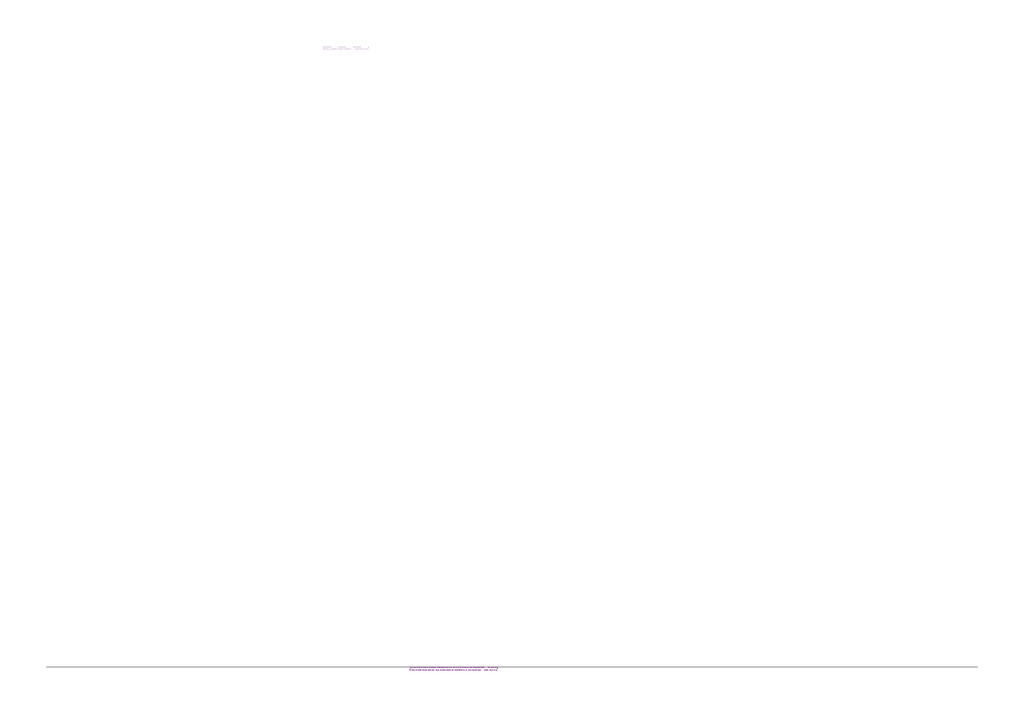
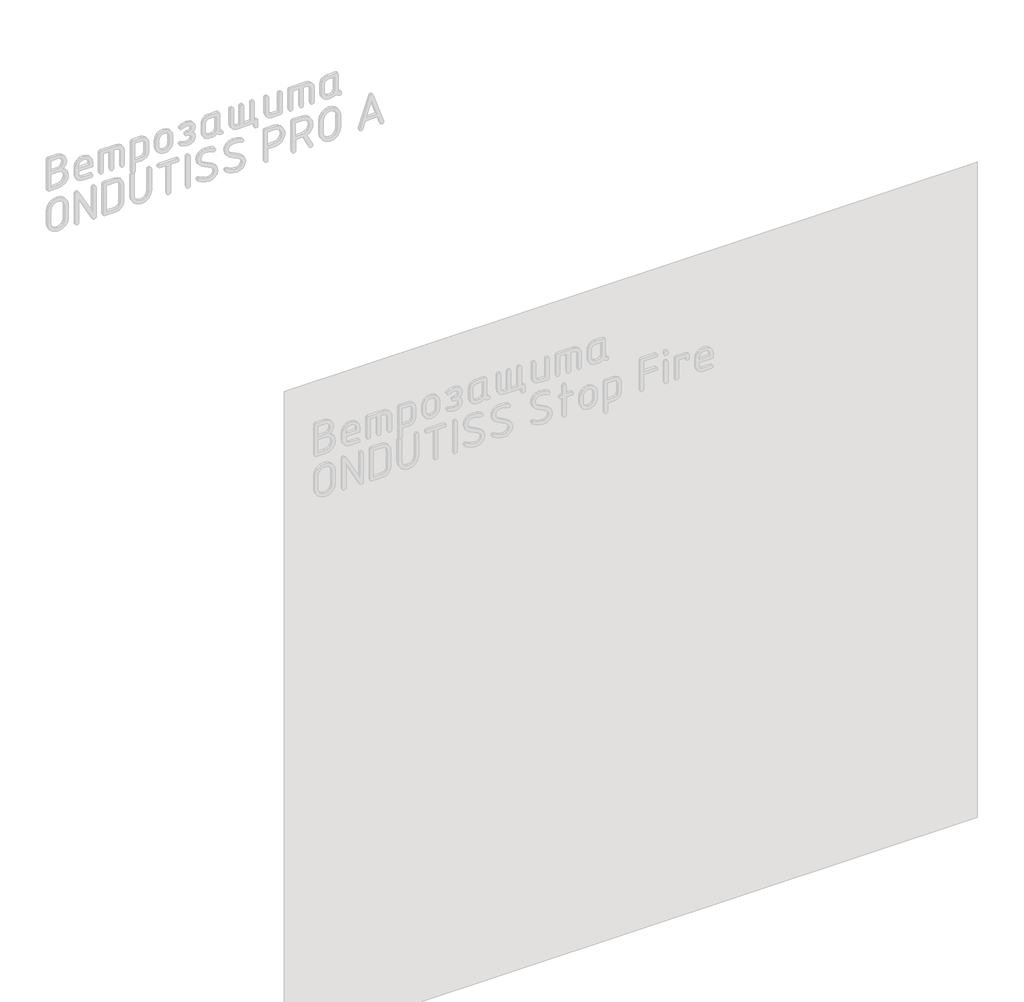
# One storey, part 21 of 42: 1 proxy.
"""IFC4 building model written with IfcOpenShell, lengths in millimetres."""

from ifc_helpers import new_model, si_unit, frame, origin, place, context, project, spatial, polyline, outline, extrude, element, save

model = new_model("IFC4")

# Units and contexts
model_context = context("Model", 3, world=origin())
ifc_project = project(units=[si_unit("LENGTHUNIT", "METRE", prefix="MILLI")], contexts=[model_context])

# Site, building, storey
site = spatial("IfcSite", under=ifc_project)
building = spatial("IfcBuilding", under=site)
storey = spatial("IfcBuildingStorey", under=building, Name="Этаж 01", Elevation=0.0)

# Proxy
placement = place(None, origin())
element("IfcBuildingElementProxy", 1, Name="150 мм GOST Common", ObjectType="150 мм GOST Common", at=placement, inside=storey, context=model_context, shape_type="SweptSolid", body=[
    extrude(outline(polyline([(2745.2967896, -23242.9801231), (2758.5207699, -23232.3430091), (2775.180588, -23228.7973044), (2790.0625597, -23231.4890436), (2802.4275806, -23239.5642611), (2810.7574896, -23251.5547357), (2813.534126, -23265.9922459), (2813.534126, -23303.1871874), (2811.6464128, -23308.7604359), (2805.9832732, -23310.6181854), (2670.2277293, -23310.6181854), (2664.5645897, -23308.750448), (2662.6768765, -23303.1472358), (2662.6768765, -23265.8723911), (2665.9479139, -23248.6932022), (2675.7610262, -23234.2307223), (2690.1885485, -23224.4026281), (2707.302816, -23221.1265968), (2729.4859431, -23226.5899784), (2745.2967896, -23242.9801231)]), holes=[polyline([(2798.1927108, -23295.2767702), (2798.1927108, -23266.0721491), (2796.5097495, -23257.6373671), (2791.4608658, -23250.5509517), (2784.0248739, -23245.7417776), (2775.180588, -23244.1387196), (2766.3363021, -23245.7417776), (2758.9003101, -23250.5509517), (2753.8514264, -23257.6373671), (2752.1684652, -23266.0721491), (2752.1684652, -23295.2767702), (2798.1927108, -23295.2767702)]), polyline([(2736.82705, -23295.2767702), (2736.82705, -23265.8723911), (2734.6946332, -23254.4811906), (2728.2973829, -23244.997679), (2718.8138714, -23238.6004287), (2707.4226708, -23236.468012), (2696.0314703, -23238.6004287), (2686.5479588, -23244.997679), (2680.1507085, -23254.4811906), (2678.0182917, -23265.8723911), (2678.0182917, -23295.2767702), (2736.82705, -23295.2767702)])]), frame((0.0, -27839.3929597, 0.0), z_axis=(0.0, 1.0, 0.0), x_axis=(0.0, 0.0, 1.0)), (0.0, 0.0, 1.0), 10.0),
    extrude(outline(polyline([(2708.7011221, -23175.1023512), (2708.7011221, -23115.0950449), (2730.7544065, -23115.0950449), (2745.0371042, -23117.8067599), (2756.8827542, -23125.9419048), (2764.8530988, -23138.0322584), (2767.5098804, -23152.6095992), (2764.7731956, -23167.0770731), (2756.5631414, -23179.3172452), (2744.4677939, -23187.6621361), (2730.0752292, -23190.4437664), (2692.6405781, -23190.4437664), (2681.004674, -23188.2264525), (2671.3463742, -23181.5745107), (2664.8442509, -23171.7763803), (2662.6768765, -23160.1205004), (2662.6768765, -23122.6059461), (2664.5945534, -23116.9727702), (2670.3475841, -23115.0950449), (2676.1006148, -23116.9727702), (2678.0182917, -23122.6059461), (2678.0182917, -23160.1205004), (2682.5527986, -23170.6677234), (2693.3597069, -23175.1023512), (2708.7011221, -23175.1023512)]), holes=[polyline([(2754.0461905, -23152.6095992), (2752.3981869, -23143.9800532), (2747.4541761, -23136.7088616), (2740.1829845, -23131.7648508), (2731.5534385, -23130.1168472), (2724.0425373, -23130.1168472), (2724.0425373, -23175.1023512), (2731.5534385, -23175.1023512), (2740.1829845, -23173.4543476), (2747.4541761, -23168.5103368), (2752.3981869, -23161.2391453), (2754.0461905, -23152.6095992)])]), frame((0.0, -27839.3929597, 0.0), z_axis=(0.0, 1.0, 0.0), x_axis=(0.0, 0.0, 1.0)), (0.0, 0.0, 1.0), 10.0),
    extrude(outline(polyline([(2767.5098804, -23077.9400549), (2765.642143, -23083.6930856), (2760.0389308, -23085.6107625), (2670.1478261, -23085.6107625), (2664.5446139, -23083.6930856), (2662.6768765, -23077.9400549), (2664.5446139, -23072.1870242), (2670.1478261, -23070.2693473), (2752.1684652, -23070.2693473), (2752.1684652, -23039.5865169), (2670.1478261, -23039.5865169), (2664.5446139, -23037.66884), (2662.6768765, -23031.9158093), (2664.5446139, -23026.1627786), (2670.1478261, -23024.2451017), (2752.1684652, -23024.2451017), (2752.1684652, -23008.9036865), (2747.8736679, -22997.9769234), (2737.2665176, -22993.5622713), (2670.1478261, -22993.5622713), (2664.5446139, -22991.6445944), (2662.6768765, -22985.8915637), (2664.5446139, -22980.138533), (2670.1478261, -22978.2208561), (2737.5461788, -22978.2208561), (2749.1071737, -22980.4581459), (2758.7804553, -22987.170015), (2765.3275241, -22997.0780123), (2767.5098804, -23008.9036865), (2767.5098804, -23077.9400549)])), frame((0.0, -27839.3929597, 0.0), z_axis=(0.0, 1.0, 0.0), x_axis=(0.0, 0.0, 1.0)), (0.0, 0.0, 1.0), 10.0),
    extrude(outline(polyline([(2759.9590276, -22947.5380258), (2624.2034837, -22947.5380258), (2618.5403441, -22945.6203489), (2616.6526309, -22939.8673182), (2618.5703078, -22934.1142875), (2624.3233385, -22932.1966106), (2662.6768765, -22932.1966106), (2662.6768765, -22902.7922314), (2664.8592328, -22891.4010309), (2671.4063016, -22881.9175193), (2681.0795832, -22875.5202691), (2692.6405781, -22873.3878523), (2737.5461788, -22873.3878523), (2749.1820829, -22875.5352509), (2758.8403827, -22881.9774467), (2765.342506, -22891.5358675), (2767.5098804, -22903.031941), (2767.5098804, -22940.1070278), (2765.6221672, -22945.6802763), (2759.9590276, -22947.5380258)]), holes=[polyline([(2752.1684652, -22932.1966106), (2752.1684652, -22903.2316991), (2747.8936437, -22892.9042099), (2737.3464208, -22888.7292675), (2692.8403361, -22888.7292675), (2682.3530405, -22892.9641373), (2678.0182917, -22903.2316991), (2678.0182917, -22932.1966106), (2752.1684652, -22932.1966106)])]), frame((0.0, -27839.3929597, 0.0), z_axis=(0.0, 1.0, 0.0), x_axis=(0.0, 0.0, 1.0)), (0.0, 0.0, 1.0), 10.0),
    extrude(outline(polyline([(2700.1115277, -22842.7050219), (2685.718963, -22839.9933069), (2673.6236155, -22831.8581619), (2665.4135613, -22819.8776753), (2662.6768765, -22805.6299352), (2665.4135613, -22791.3821951), (2673.6236155, -22779.4017084), (2685.718963, -22771.2665634), (2700.1115277, -22768.5548485), (2730.0752292, -22768.5548485), (2744.6176124, -22771.2365997), (2756.6829962, -22779.2818536), (2764.8031593, -22791.2323766), (2767.5098804, -22805.6299352), (2764.7731956, -22819.8776753), (2756.5631414, -22831.8581619), (2744.4677939, -22839.9933069), (2730.0752292, -22842.7050219), (2700.1115277, -22842.7050219)]), holes=[polyline([(2700.5509953, -22783.8962636), (2691.8914855, -22785.4893338), (2684.6103061, -22790.2685442), (2679.6662953, -22797.2950322), (2678.0182917, -22805.6299352), (2679.6563074, -22814.0397474), (2684.5703545, -22821.0512536), (2691.841546, -22825.7855184), (2700.5509953, -22827.3636067), (2730.5546484, -22827.3636067), (2739.1841945, -22825.7705366), (2746.4553861, -22820.9913262), (2751.3993968, -22813.9648382), (2753.0474004, -22805.6299352), (2751.3993968, -22797.2950322), (2746.4553861, -22790.2685442), (2739.1841945, -22785.4893338), (2730.5546484, -22783.8962636), (2700.5509953, -22783.8962636)])]), frame((0.0, -27839.3929597, 0.0), z_axis=(0.0, 1.0, 0.0), x_axis=(0.0, 0.0, 1.0)), (0.0, 0.0, 1.0), 10.0),
    extrude(outline(polyline([(2693.3996585, -22686.7339674), (2682.5128469, -22691.1086678), (2678.0182917, -22701.7557698), (2678.0182917, -22709.266671), (2681.8336697, -22724.3084492), (2685.6490477, -22733.4373902), (2682.9323388, -22737.5524052), (2677.6587273, -22739.2703241), (2671.7059386, -22736.2240145), (2666.6320851, -22727.0850855), (2662.6768765, -22709.266671), (2662.6768765, -22701.7557698), (2664.8991844, -22690.0699262), (2671.566108, -22680.2618079), (2681.4591234, -22673.6098661), (2693.3597069, -22671.3925522), (2707.1829612, -22674.0393458), (2716.3718297, -22681.9797267), (2725.0113637, -22674.0393458), (2738.3052592, -22671.3925522), (2749.6215505, -22673.6098661), (2759.0401407, -22680.2618079), (2765.3924455, -22690.0699262), (2767.5098804, -22701.7557698), (2767.5098804, -22709.266671), (2763.434817, -22726.9652307), (2758.2710724, -22736.1940508), (2752.5280296, -22739.2703241), (2747.2743939, -22737.5524052), (2744.5377092, -22733.557245), (2748.3530872, -22724.6480378), (2752.1684652, -22709.266671), (2752.1684652, -22701.7557698), (2748.1133776, -22691.0687162), (2738.1055012, -22686.7339674), (2728.0976249, -22690.7690792), (2724.0425373, -22702.434947), (2724.0425373, -22704.8320431), (2724.0425373, -22707.1092845), (2721.7852718, -22714.5203066), (2716.3318781, -22716.7376206), (2710.8984602, -22714.580234), (2708.7011221, -22709.266671), (2708.7011221, -22699.5983833), (2704.7459135, -22690.7291276), (2693.3996585, -22686.7339674)])), frame((0.0, -27839.3929597, 0.0), z_axis=(0.0, 1.0, 0.0), x_axis=(0.0, 0.0, 1.0)), (0.0, 0.0, 1.0), 10.0),
    extrude(outline(polyline([(2670.1478261, -22551.5776976), (2675.781002, -22553.4504289), (2677.6587273, -22559.068623), (2679.5264647, -22564.686817), (2685.1296769, -22566.5595483), (2760.0389308, -22566.5595483), (2765.642143, -22568.4172978), (2767.5098804, -22573.9905463), (2767.5098804, -22611.0656331), (2765.342506, -22622.5617066), (2758.8403827, -22632.1201274), (2749.1820829, -22638.5623232), (2737.5461788, -22640.7097218), (2692.6405781, -22640.7097218), (2681.004674, -22638.5623232), (2671.3463742, -22632.1201274), (2664.8442509, -22622.5617066), (2662.6768765, -22611.0656331), (2662.6768765, -22596.2036371), (2664.6644687, -22585.2269344), (2670.6272453, -22576.1079812), (2664.6644687, -22568.5271648), (2662.6768765, -22559.0486472), (2664.5446139, -22553.445435), (2670.1478261, -22551.5776976)]), holes=[polyline([(2752.1684652, -22581.9009635), (2692.8403361, -22581.9009635), (2682.3530405, -22586.1358334), (2678.0182917, -22596.4033951), (2678.0182917, -22610.8658751), (2682.3929921, -22621.0934852), (2692.8403361, -22625.3683066), (2737.3464208, -22625.3683066), (2747.8337163, -22621.1334368), (2752.1684652, -22610.8658751), (2752.1684652, -22581.9009635)])]), frame((0.0, -27839.3929597, 0.0), z_axis=(0.0, 1.0, 0.0), x_axis=(0.0, 0.0, 1.0)), (0.0, 0.0, 1.0), 10.0),
    extrude(outline(polyline([(2662.6768765, -22415.7022989), (2647.3354613, -22415.7022989), (2641.5824306, -22413.784622), (2639.6647537, -22408.0315913), (2641.5824306, -22402.2785606), (2647.3354613, -22400.3608837), (2670.3475841, -22400.3608837), (2676.1006148, -22402.2785606), (2678.0182917, -22408.0315913), (2678.0182917, -22415.7022989), (2760.0389308, -22415.7022989), (2765.642143, -22417.6199758), (2767.5098804, -22423.3730065), (2765.642143, -22429.1260372), (2760.0389308, -22431.0437141), (2678.0182917, -22431.0437141), (2678.0182917, -22461.7265445), (2760.0389308, -22461.7265445), (2765.642143, -22463.6442214), (2767.5098804, -22469.3972521), (2765.642143, -22475.1502828), (2760.0389308, -22477.0679597), (2678.0182917, -22477.0679597), (2678.0182917, -22491.1309236), (2682.4329437, -22501.0389209), (2692.9202393, -22505.1938876), (2760.0389308, -22505.1938876), (2765.642143, -22507.1115645), (2767.5098804, -22512.8645952), (2765.642143, -22518.6176259), (2760.0389308, -22520.5353028), (2692.6405781, -22520.5353028), (2681.0795832, -22518.3679283), (2671.4063016, -22511.8658051), (2664.8592328, -22502.2075053), (2662.6768765, -22490.5716012), (2662.6768765, -22415.7022989)])), frame((0.0, -27839.3929597, 0.0), z_axis=(0.0, 1.0, 0.0), x_axis=(0.0, 0.0, 1.0)), (0.0, 0.0, 1.0), 10.0),
    extrude(outline(polyline([(2760.0389308, -22295.5278799), (2765.642143, -22297.4455568), (2767.5098804, -22303.1985875), (2765.642143, -22308.9516182), (2760.0389308, -22310.8692951), (2678.0182917, -22310.8692951), (2678.0182917, -22339.8342066), (2682.4329437, -22350.0618167), (2692.9202393, -22354.3366381), (2760.0389308, -22354.3366381), (2765.642143, -22356.254315), (2767.5098804, -22362.0073457), (2765.642143, -22367.7603764), (2760.0389308, -22369.6780533), (2692.6405781, -22369.6780533), (2681.004674, -22367.5306547), (2671.3463742, -22361.0884589), (2664.8442509, -22351.5300381), (2662.6768765, -22340.0339646), (2662.6768765, -22302.9588778), (2664.5446139, -22297.3856294), (2670.1478261, -22295.5278799), (2760.0389308, -22295.5278799)])), frame((0.0, -27839.3929597, 0.0), z_axis=(0.0, 1.0, 0.0), x_axis=(0.0, 0.0, 1.0)), (0.0, 0.0, 1.0), 10.0),
    extrude(outline(polyline([(2767.5098804, -22257.1743419), (2765.642143, -22262.9273726), (2760.0389308, -22264.8450495), (2670.1478261, -22264.8450495), (2664.5446139, -22262.9273726), (2662.6768765, -22257.1743419), (2664.5446139, -22251.4213112), (2670.1478261, -22249.5036343), (2752.1684652, -22249.5036343), (2752.1684652, -22218.8208039), (2670.1478261, -22218.8208039), (2664.5446139, -22216.903127), (2662.6768765, -22211.1500963), (2664.5446139, -22205.3970656), (2670.1478261, -22203.4793887), (2752.1684652, -22203.4793887), (2752.1684652, -22188.1379735), (2747.8736679, -22177.2112103), (2737.2665176, -22172.7965583), (2670.1478261, -22172.7965583), (2664.5446139, -22170.8788814), (2662.6768765, -22165.1258507), (2664.5446139, -22159.37282), (2670.1478261, -22157.4551431), (2737.5461788, -22157.4551431), (2749.1071737, -22159.6924328), (2758.7804553, -22166.4043019), (2765.3275241, -22176.3122993), (2767.5098804, -22188.1379735), (2767.5098804, -22257.1743419)])), frame((0.0, -27839.3929597, 0.0), z_axis=(0.0, 1.0, 0.0), x_axis=(0.0, 0.0, 1.0)), (0.0, 0.0, 1.0), 10.0),
    extrude(outline(polyline([(2670.1478261, -22037.6402885), (2675.781002, -22039.5130198), (2677.6587273, -22045.1312138), (2679.5264647, -22050.7494079), (2685.1296769, -22052.6221392), (2760.0389308, -22052.6221392), (2765.642143, -22054.4798887), (2767.5098804, -22060.0531372), (2767.5098804, -22097.1282239), (2765.342506, -22108.6242974), (2758.8403827, -22118.1827182), (2749.1820829, -22124.6249141), (2737.5461788, -22126.7723127), (2692.6405781, -22126.7723127), (2681.004674, -22124.6249141), (2671.3463742, -22118.1827182), (2664.8442509, -22108.6242974), (2662.6768765, -22097.1282239), (2662.6768765, -22082.266228), (2664.6644687, -22071.2895253), (2670.6272453, -22062.1705721), (2664.6644687, -22054.5897556), (2662.6768765, -22045.111238), (2664.5446139, -22039.5080259), (2670.1478261, -22037.6402885)]), holes=[polyline([(2752.1684652, -22067.9635544), (2692.8403361, -22067.9635544), (2682.3530405, -22072.1984243), (2678.0182917, -22082.465986), (2678.0182917, -22096.9284659), (2682.3929921, -22107.1560761), (2692.8403361, -22111.4308975), (2737.3464208, -22111.4308975), (2747.8337163, -22107.1960277), (2752.1684652, -22096.9284659), (2752.1684652, -22067.9635544)])]), frame((0.0, -27839.3929597, 0.0), z_axis=(0.0, 1.0, 0.0), x_axis=(0.0, 0.0, 1.0)), (0.0, 0.0, 1.0), 10.0),
    extrude(outline(polyline([(2511.9177961, -23221.1265968), (2572.2447152, -23221.1265968), (2589.6885835, -23224.3876463), (2604.3058759, -23234.1707949), (2614.2088792, -23248.618293), (2617.5098804, -23265.8723911), (2614.1938974, -23283.05158), (2604.2459485, -23297.5140599), (2589.6136742, -23307.3421541), (2572.2447152, -23310.6181854), (2511.9177961, -23310.6181854), (2494.5488371, -23307.3421541), (2479.9165628, -23297.5140599), (2469.9686139, -23283.05158), (2466.6526309, -23265.8723911), (2469.9686139, -23248.6932022), (2479.9165628, -23234.2307223), (2494.5488371, -23224.4026281), (2511.9177961, -23221.1265968)]), holes=[polyline([(2512.0376509, -23236.468012), (2500.3917589, -23238.6004287), (2490.7034954, -23244.997679), (2484.1714084, -23254.4811906), (2481.9940461, -23265.8723911), (2484.1714084, -23277.2635916), (2490.7034954, -23286.7471032), (2500.3917589, -23293.1443535), (2512.0376509, -23295.2767702), (2572.1248604, -23295.2767702), (2583.7707524, -23293.1443535), (2593.4590159, -23286.7471032), (2599.9911029, -23277.2635916), (2602.1684652, -23265.8723911), (2599.9911029, -23254.4811906), (2593.4590159, -23244.997679), (2583.7707524, -23238.6004287), (2572.1248604, -23236.468012), (2512.0376509, -23236.468012)])]), frame((0.0, -27839.3929597, 0.0), z_axis=(0.0, 1.0, 0.0), x_axis=(0.0, 0.0, 1.0)), (0.0, 0.0, 1.0), 10.0),
    extrude(outline(polyline([(2503.3282016, -23116.2935929), (2613.0353009, -23175.1023512), (2617.5098804, -23182.453446), (2615.6221672, -23188.4461863), (2609.9590276, -23190.4437664), (2474.2034837, -23190.4437664), (2468.5403441, -23188.5260895), (2466.6526309, -23182.7730588), (2468.5403441, -23177.0200281), (2474.2034837, -23175.1023512), (2580.9541645, -23175.1023512), (2470.4080815, -23116.2935929), (2466.6526309, -23109.1023046), (2468.5403441, -23102.9897094), (2474.2034837, -23100.9521777), (2609.9590276, -23100.9521777), (2615.6221672, -23102.8698546), (2617.5098804, -23108.6228853), (2615.6221672, -23114.375916), (2609.9590276, -23116.2935929), (2503.3282016, -23116.2935929)])), frame((0.0, -27839.3929597, 0.0), z_axis=(0.0, 1.0, 0.0), x_axis=(0.0, 0.0, 1.0)), (0.0, 0.0, 1.0), 10.0),
    extrude(outline(polyline([(2609.9590276, -23070.2693473), (2474.2034837, -23070.2693473), (2468.5403441, -23068.4016099), (2466.6526309, -23062.7983977), (2466.6526309, -23018.0526034), (2469.4092915, -23003.7299541), (2477.6792731, -22991.684546), (2489.8645117, -22983.5044555), (2504.3669433, -22980.7777587), (2579.795568, -22980.7777587), (2594.4478181, -22983.4744918), (2606.603093, -22991.5646912), (2614.7831835, -23003.5801356), (2617.5098804, -23018.0526034), (2617.5098804, -23062.7983977), (2615.6221672, -23068.4016099), (2609.9590276, -23070.2693473)]), holes=[polyline([(2602.1684652, -23054.9279321), (2602.1684652, -23018.1724582), (2600.5204616, -23009.6977246), (2595.5764508, -23002.5713576), (2588.2952713, -22997.7322198), (2579.6357616, -22996.1191739), (2504.5267497, -22996.1191739), (2495.8672399, -22997.7322198), (2488.5860605, -23002.5713576), (2483.6420497, -23009.6977246), (2481.9940461, -23018.1724582), (2481.9940461, -23054.9279321), (2602.1684652, -23054.9279321)])]), frame((0.0, -27839.3929597, 0.0), z_axis=(0.0, 1.0, 0.0), x_axis=(0.0, 0.0, 1.0)), (0.0, 0.0, 1.0), 10.0),
    extrude(outline(polyline([(2609.9590276, -22860.6033396), (2615.6221672, -22862.5210165), (2617.5098804, -22868.2740472), (2615.6321551, -22874.0270779), (2609.9989792, -22875.9447548), (2512.1175541, -22875.9447548), (2500.4367044, -22878.0771716), (2490.7234712, -22884.4744219), (2484.1764024, -22893.9579334), (2481.9940461, -22905.349134), (2484.1764024, -22916.7403345), (2490.7234712, -22926.223846), (2500.4367044, -22932.6210963), (2512.1175541, -22934.7535131), (2609.9989792, -22934.7535131), (2615.6321551, -22936.67119), (2617.5098804, -22942.4242207), (2615.6221672, -22948.1772514), (2609.9590276, -22950.0949283), (2511.9177961, -22950.0949283), (2494.5488371, -22946.8188969), (2479.9165628, -22936.9908028), (2469.9686139, -22922.5283229), (2466.6526309, -22905.349134), (2469.9686139, -22888.1699451), (2479.9165628, -22873.7074651), (2494.5488371, -22863.879371), (2511.9177961, -22860.6033396), (2609.9590276, -22860.6033396)])), frame((0.0, -27839.3929597, 0.0), z_axis=(0.0, 1.0, 0.0), x_axis=(0.0, 0.0, 1.0)), (0.0, 0.0, 1.0), 10.0),
    extrude(outline(polyline([(2609.8391728, -22831.6384281), (2604.0861421, -22829.7607028), (2602.1684652, -22824.1275269), (2602.1684652, -22794.1238738), (2474.1635321, -22794.1238738), (2468.5303562, -22792.2061969), (2466.6526309, -22786.4531662), (2468.5303562, -22780.7001355), (2474.1635321, -22778.7824586), (2602.1684652, -22778.7824586), (2602.1684652, -22748.7788054), (2604.0861421, -22743.1755932), (2609.8391728, -22741.3078558), (2615.5922035, -22743.1755932), (2617.5098804, -22748.7788054), (2617.5098804, -22824.1275269), (2615.5922035, -22829.7607028), (2609.8391728, -22831.6384281)])), frame((0.0, -27839.3929597, 0.0), z_axis=(0.0, 1.0, 0.0), x_axis=(0.0, 0.0, 1.0)), (0.0, 0.0, 1.0), 10.0),
    extrude(outline(polyline([(2466.6526309, -22702.0753826), (2468.5403441, -22696.3223519), (2474.2034837, -22694.404675), (2609.9590276, -22694.404675), (2615.6221672, -22696.3223519), (2617.5098804, -22702.0753826), (2615.6221672, -22707.8284133), (2609.9590276, -22709.7460902), (2474.2034837, -22709.7460902), (2468.5403441, -22707.8284133), (2466.6526309, -22702.0753826)])), frame((0.0, -27839.3929597, 0.0), z_axis=(0.0, 1.0, 0.0), x_axis=(0.0, 0.0, 1.0)), (0.0, 0.0, 1.0), 10.0),
    extrude(outline(polyline([(2504.2870401, -22574.2302559), (2524.1429863, -22579.3140973), (2537.8463858, -22594.5656214), (2559.5001542, -22636.2351424), (2567.6602689, -22645.3441076), (2579.59581, -22648.3804294), (2588.2603137, -22646.7673835), (2595.556475, -22641.9282457), (2600.5154676, -22634.8018786), (2602.1684652, -22626.3271451), (2600.4904979, -22609.567448), (2595.456596, -22592.6878961), (2594.657564, -22589.5716711), (2596.8748779, -22584.2780839), (2602.1684652, -22582.06077), (2609.1599955, -22586.4953978), (2615.4224092, -22603.4648408), (2617.5098804, -22626.6467579), (2614.7432319, -22640.8195887), (2606.4432866, -22652.8150572), (2594.2680359, -22660.9951478), (2579.8754712, -22663.7218446), (2560.0494887, -22658.6979306), (2546.4359803, -22643.6261888), (2524.7822119, -22601.9167162), (2516.5322061, -22592.6579324), (2504.5667013, -22589.5716711), (2495.9021976, -22591.1996989), (2488.6060363, -22596.0837823), (2483.6470437, -22603.2750707), (2481.9940461, -22611.8247135), (2485.1901743, -22631.6007565), (2495.657494, -22652.0559768), (2497.0158485, -22656.2908466), (2494.7985346, -22661.5245065), (2489.5049473, -22663.7218446), (2483.3923522, -22660.4458132), (2470.8375612, -22637.5235815), (2466.6526309, -22611.5051007), (2469.4192794, -22597.2573606), (2477.7192247, -22585.1969707), (2489.8944754, -22576.9719346), (2504.2870401, -22574.2302559)])), frame((0.0, -27839.3929597, 0.0), z_axis=(0.0, 1.0, 0.0), x_axis=(0.0, 0.0, 1.0)), (0.0, 0.0, 1.0), 10.0),
    extrude(outline(polyline([(2504.2870401, -22454.0558369), (2524.1429863, -22459.1396783), (2537.8463858, -22474.3912024), (2559.5001542, -22516.0607233), (2567.6602689, -22525.1696886), (2579.59581, -22528.2060104), (2588.2603137, -22526.5929644), (2595.556475, -22521.7538266), (2600.5154676, -22514.6274596), (2602.1684652, -22506.152726), (2600.4904979, -22489.3930289), (2595.456596, -22472.5134771), (2594.657564, -22469.3972521), (2596.8748779, -22464.1036648), (2602.1684652, -22461.8863509), (2609.1599955, -22466.3209787), (2615.4224092, -22483.2904217), (2617.5098804, -22506.4723388), (2614.7432319, -22520.6451697), (2606.4432866, -22532.6406382), (2594.2680359, -22540.8207287), (2579.8754712, -22543.5474256), (2560.0494887, -22538.5235116), (2546.4359803, -22523.4517697), (2524.7822119, -22481.7422971), (2516.5322061, -22472.4835134), (2504.5667013, -22469.3972521), (2495.9021976, -22471.0252799), (2488.6060363, -22475.9093632), (2483.6470437, -22483.1006516), (2481.9940461, -22491.6502945), (2485.1901743, -22511.4263375), (2495.657494, -22531.8815577), (2497.0158485, -22536.1164276), (2494.7985346, -22541.3500874), (2489.5049473, -22543.5474256), (2483.3923522, -22540.2713942), (2470.8375612, -22517.3491625), (2466.6526309, -22491.3306816), (2469.4192794, -22477.0829415), (2477.7192247, -22465.0225517), (2489.8944754, -22456.7975156), (2504.2870401, -22454.0558369)])), frame((0.0, -27839.3929597, 0.0), z_axis=(0.0, 1.0, 0.0), x_axis=(0.0, 0.0, 1.0)), (0.0, 0.0, 1.0), 10.0),
    extrude(outline(polyline([(2504.2870401, -22282.7433672), (2524.1429863, -22287.8272086), (2537.8463858, -22303.0787327), (2559.5001542, -22344.7482536), (2567.6602689, -22353.8572189), (2579.59581, -22356.8935406), (2588.2603137, -22355.2804947), (2595.556475, -22350.4413569), (2600.5154676, -22343.3149899), (2602.1684652, -22334.8402563), (2600.4904979, -22318.0805592), (2595.456596, -22301.2010074), (2594.657564, -22298.0847824), (2596.8748779, -22292.7911951), (2602.1684652, -22290.5738812), (2609.1599955, -22295.008509), (2615.4224092, -22311.977952), (2617.5098804, -22335.1598691), (2614.7432319, -22349.3327), (2606.4432866, -22361.3281685), (2594.2680359, -22369.508259), (2579.8754712, -22372.2349558), (2560.0494887, -22367.2110419), (2546.4359803, -22352.1393), (2524.7822119, -22310.4298274), (2516.5322061, -22301.1710437), (2504.5667013, -22298.0847824), (2495.9021976, -22299.7128102), (2488.6060363, -22304.5968935), (2483.6470437, -22311.7881819), (2481.9940461, -22320.3378247), (2485.1901743, -22340.1138678), (2495.657494, -22360.569088), (2497.0158485, -22364.8039579), (2494.7985346, -22370.0376177), (2489.5049473, -22372.2349558), (2483.3923522, -22368.9589245), (2470.8375612, -22346.0366928), (2466.6526309, -22320.0182119), (2469.4192794, -22305.7704718), (2477.7192247, -22293.710082), (2489.8944754, -22285.4850459), (2504.2870401, -22282.7433672)])), frame((0.0, -27839.3929597, 0.0), z_axis=(0.0, 1.0, 0.0), x_axis=(0.0, 0.0, 1.0)), (0.0, 0.0, 1.0), 10.0),
    extrude(outline(polyline([(2556.1442196, -22236.7191216), (2474.1235805, -22236.7191216), (2468.5203683, -22234.8014447), (2466.6526309, -22229.048414), (2468.5203683, -22223.2953833), (2474.1235805, -22221.3777064), (2556.1442196, -22221.3777064), (2556.1442196, -22198.8450028), (2558.0618965, -22193.2417906), (2563.8149272, -22191.3740532), (2569.5679579, -22193.2417906), (2571.4856348, -22198.8450028), (2571.4856348, -22221.3777064), (2609.8391728, -22221.3777064), (2615.5922035, -22223.2953833), (2617.5098804, -22229.048414), (2615.5922035, -22234.8014447), (2609.8391728, -22236.7191216), (2571.4856348, -22236.7191216), (2571.4856348, -22244.2300228), (2569.5679579, -22249.8631987), (2563.8149272, -22251.740924), (2558.0618965, -22249.8631987), (2556.1442196, -22244.2300228), (2556.1442196, -22236.7191216)])), frame((0.0, -27839.3929597, 0.0), z_axis=(0.0, 1.0, 0.0), x_axis=(0.0, 0.0, 1.0)), (0.0, 0.0, 1.0), 10.0),
    extrude(outline(polyline([(2504.0872821, -22162.5689481), (2489.6947174, -22159.8572332), (2477.5993699, -22151.7220882), (2469.3893157, -22139.7416015), (2466.6526309, -22125.4938614), (2469.3893157, -22111.2461213), (2477.5993699, -22099.2656347), (2489.6947174, -22091.1304897), (2504.0872821, -22088.4187747), (2534.0509836, -22088.4187747), (2548.5933668, -22091.100526), (2560.6587506, -22099.1457799), (2568.7789137, -22111.0963028), (2571.4856348, -22125.4938614), (2568.74895, -22139.7416015), (2560.5388958, -22151.7220882), (2548.4435483, -22159.8572332), (2534.0509836, -22162.5689481), (2504.0872821, -22162.5689481)]), holes=[polyline([(2504.5267497, -22103.7601899), (2495.8672399, -22105.35326), (2488.5860605, -22110.1324704), (2483.6420497, -22117.1589584), (2481.9940461, -22125.4938614), (2483.6320618, -22133.9036737), (2488.5461089, -22140.9151798), (2495.8173004, -22145.6494447), (2504.5267497, -22147.227533), (2534.5304029, -22147.227533), (2543.1599489, -22145.6344628), (2550.4311405, -22140.8552524), (2555.3751512, -22133.8287644), (2557.0231548, -22125.4938614), (2555.3751512, -22117.1589584), (2550.4311405, -22110.1324704), (2543.1599489, -22105.35326), (2534.5304029, -22103.7601899), (2504.5267497, -22103.7601899)])]), frame((0.0, -27839.3929597, 0.0), z_axis=(0.0, 1.0, 0.0), x_axis=(0.0, 0.0, 1.0)), (0.0, 0.0, 1.0), 10.0),
    extrude(outline(polyline([(2563.934782, -22057.7359443), (2428.1792381, -22057.7359443), (2422.5160985, -22055.8182674), (2420.6283853, -22050.0652367), (2422.5460622, -22044.312206), (2428.2990929, -22042.3945291), (2466.6526309, -22042.3945291), (2466.6526309, -22012.99015), (2468.8349872, -22001.5989494), (2475.382056, -21992.1154379), (2485.0553376, -21985.7181876), (2496.6163325, -21983.5857708), (2541.5219332, -21983.5857708), (2553.1578373, -21985.7331695), (2562.8161371, -21992.1753653), (2569.3182604, -22001.7337861), (2571.4856348, -22013.2298596), (2571.4856348, -22050.3049463), (2569.5979216, -22055.8781948), (2563.934782, -22057.7359443)]), holes=[polyline([(2556.1442196, -22042.3945291), (2556.1442196, -22013.4296176), (2551.8693982, -22003.1021285), (2541.3221752, -21998.927186), (2496.8160905, -21998.927186), (2486.3287949, -22003.1620559), (2481.9940461, -22013.4296176), (2481.9940461, -22042.3945291), (2556.1442196, -22042.3945291)])]), frame((0.0, -27839.3929597, 0.0), z_axis=(0.0, 1.0, 0.0), x_axis=(0.0, 0.0, 1.0)), (0.0, 0.0, 1.0), 10.0),
    extrude(outline(polyline([(2474.2034837, -21901.7648898), (2468.5403441, -21899.8472129), (2466.6526309, -21894.0941822), (2468.5103804, -21888.3411515), (2474.0836289, -21886.4234746), (2540.8028044, -21886.4234746), (2540.8028044, -21833.9270695), (2542.7204813, -21828.2938936), (2548.473512, -21826.4161683), (2554.2265427, -21828.2938936), (2556.1442196, -21833.9270695), (2556.1442196, -21886.4234746), (2602.1684652, -21886.4234746), (2602.1684652, -21833.9270695), (2604.0861421, -21828.2938936), (2609.8391728, -21826.4161683), (2615.5922035, -21828.2938936), (2617.5098804, -21833.9270695), (2617.5098804, -21894.0941822), (2615.6221672, -21899.8472129), (2609.9590276, -21901.7648898), (2474.2034837, -21901.7648898)])), frame((0.0, -27839.3929597, 0.0), z_axis=(0.0, 1.0, 0.0), x_axis=(0.0, 0.0, 1.0)), (0.0, 0.0, 1.0), 10.0),
    extrude(outline(polyline([(2564.1744916, -21796.9318859), (2474.1635321, -21796.9318859), (2468.5303562, -21795.014209), (2466.6526309, -21789.2611783), (2468.5303562, -21783.5081476), (2474.1635321, -21781.5904707), (2564.1744916, -21781.5904707), (2569.7777038, -21783.5081476), (2571.6454412, -21789.2611783), (2569.7777038, -21795.014209), (2564.1744916, -21796.9318859)])), frame((0.0, -27839.3929597, 0.0), z_axis=(0.0, 1.0, 0.0), x_axis=(0.0, 0.0, 1.0)), (0.0, 0.0, 1.0), 10.0),
    extrude(outline(polyline([(2602.488078, -21796.9318859), (2596.8549021, -21795.014209), (2594.9771768, -21789.2611783), (2596.8549021, -21783.5081476), (2602.488078, -21781.5904707), (2609.9989792, -21781.5904707), (2615.6321551, -21783.5081476), (2617.5098804, -21789.2611783), (2615.6321551, -21795.014209), (2609.9989792, -21796.9318859), (2602.488078, -21796.9318859)])), frame((0.0, -27839.3929597, 0.0), z_axis=(0.0, 1.0, 0.0), x_axis=(0.0, 0.0, 1.0)), (0.0, 0.0, 1.0), 10.0),
    extrude(outline(polyline([(2564.0146852, -21750.9076403), (2474.1235805, -21750.9076403), (2468.5203683, -21748.9899634), (2466.6526309, -21743.2369327), (2468.5203683, -21737.483902), (2474.1235805, -21735.5662252), (2556.1442196, -21735.5662252), (2556.1442196, -21705.562572), (2548.6333184, -21705.562572), (2543.0001425, -21703.6848467), (2541.1224172, -21698.0516708), (2543.0001425, -21692.4484586), (2548.6333184, -21690.5807212), (2563.8149272, -21690.5807212), (2569.5679579, -21692.4484586), (2571.4856348, -21698.0516708), (2571.4856348, -21743.2369327), (2569.6178974, -21748.9899634), (2564.0146852, -21750.9076403)])), frame((0.0, -27839.3929597, 0.0), z_axis=(0.0, 1.0, 0.0), x_axis=(0.0, 0.0, 1.0)), (0.0, 0.0, 1.0), 10.0),
    extrude(outline(polyline([(2512.6768765, -21646.0746365), (2512.6768765, -21586.0673302), (2534.7301609, -21586.0673302), (2549.0128586, -21588.7790452), (2560.8585086, -21596.9141901), (2568.8288532, -21609.0045437), (2571.4856348, -21623.5818845), (2568.74895, -21638.0493584), (2560.5388958, -21650.2895305), (2548.4435483, -21658.6344214), (2534.0509836, -21661.4160517), (2496.6163325, -21661.4160517), (2484.9804284, -21659.1987378), (2475.3221286, -21652.546796), (2468.8200053, -21642.7486656), (2466.6526309, -21631.0927857), (2466.6526309, -21593.5782314), (2468.5703078, -21587.9450555), (2474.3233385, -21586.0673302), (2480.0763692, -21587.9450555), (2481.9940461, -21593.5782314), (2481.9940461, -21631.0927857), (2486.528553, -21641.6400087), (2497.3354613, -21646.0746365), (2512.6768765, -21646.0746365)]), holes=[polyline([(2558.0219449, -21623.5818845), (2556.3739413, -21614.9523385), (2551.4299305, -21607.6811469), (2544.158739, -21602.7371361), (2535.5291929, -21601.0891326), (2528.0182917, -21601.0891326), (2528.0182917, -21646.0746365), (2535.5291929, -21646.0746365), (2544.158739, -21644.4266329), (2551.4299305, -21639.4826222), (2556.3739413, -21632.2114306), (2558.0219449, -21623.5818845)])]), frame((0.0, -27839.3929597, 0.0), z_axis=(0.0, 1.0, 0.0), x_axis=(0.0, 0.0, 1.0)), (0.0, 0.0, 1.0), 10.0),
])

save(model, "model.ifc")
